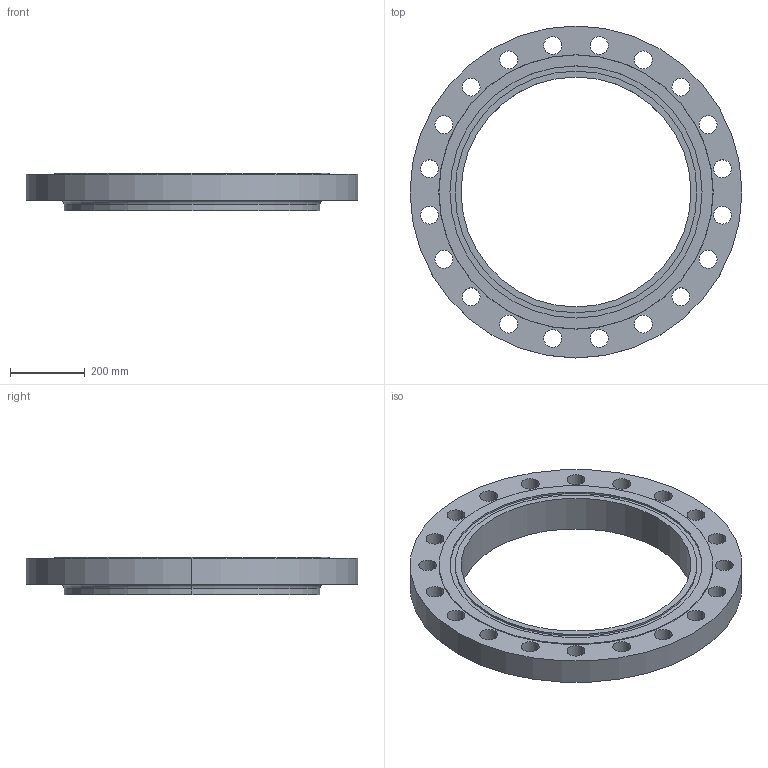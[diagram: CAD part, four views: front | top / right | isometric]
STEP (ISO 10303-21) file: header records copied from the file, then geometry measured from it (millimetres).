
FILE_DESCRIPTION (( 'STEP AP214' ), '1' );
FILE_NAME ('PN40 DN600 Type 12 - Type D Face.STEP', '2018-12-28T23:04:26', ( '' ), ( '' ), 'SwSTEP 2.0', 'SolidWorks 2019', '' );
FILE_SCHEMA (( 'AUTOMOTIVE_DESIGN' ));
Length unit declared in the file: millimetre
Products named in the file (1): PN40 DN600 Type 12 - Type D Face
Bounding box: 890 x 890 x 100 mm (x, y, z)
Volume: 22283669.9 mm3; surface area: 1249327 mm2
Topology: 1 solids, 1 shells, 60 faces, 160 edges, 106 vertices
Faces by surface type: cylinder 50, plane 6, torus 2, cone 2
Entity records: 2054 total; most frequent: DIRECTION 390, CARTESIAN_POINT 327, ORIENTED_EDGE 320, AXIS2_PLACEMENT_3D 169, EDGE_CURVE 160, CIRCLE 108, VERTEX_POINT 106, EDGE_LOOP 106
